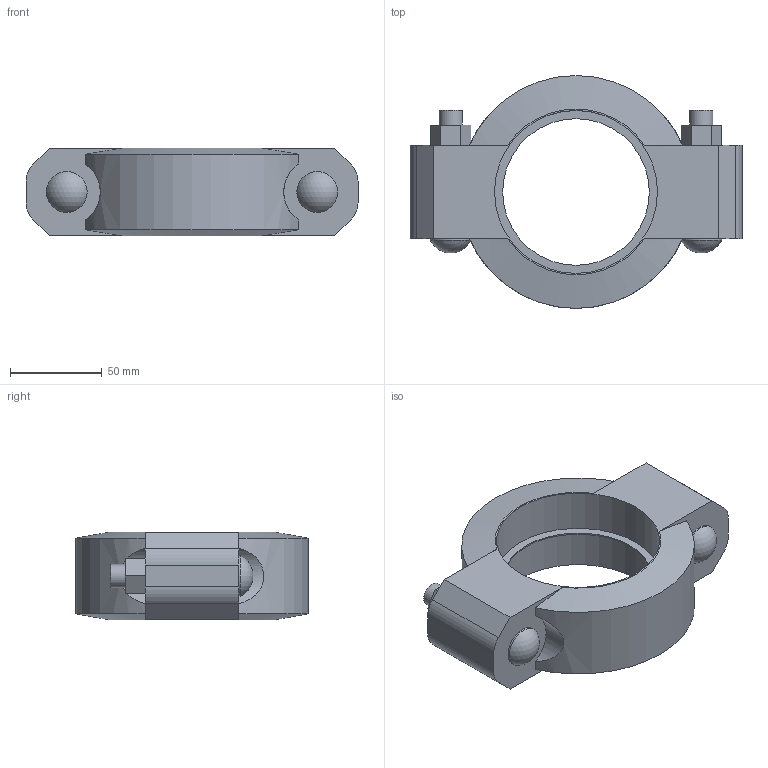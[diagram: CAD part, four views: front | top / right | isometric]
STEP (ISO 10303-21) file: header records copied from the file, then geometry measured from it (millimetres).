
FILE_DESCRIPTION(/* description */ ('Victaulic Standard Flexible Coupling Style 77','CAx-IF Rec.Pracs.---Representation and Presentation of Product Manufacturing Information (PMI)---4.0---2014-10-13'),/* implementation_level */ '2;1');
FILE_NAME(/* name */ 'C:\Users\Vjadhav\Desktop\CAD for Inventor\1\Coupling bolt thickness\77\Victaulic_IPS_Coupling Flexible_Style 77 (OGS)\Victaulic_IPS_Coupling Flexible_Style 77 (OGS)_3 (80).stp',/* time_stamp */ '2022-03-24T18:20:07+06:00',/* author */ ('CONSTRUCTION PIPING SERVICES'),/* organization */ ('Victaulic'),/* preprocessor_version */ 'ST-DEVELOPER v17.2',/* originating_system */ 'Autodesk Inventor 2019',/* authorisation */ '');
FILE_SCHEMA (('AP242_MANAGED_MODEL_BASED_3D_ENGINEERING_MIM_LF { 1 0 10303 442 1 1 4 }'));
Length unit declared in the file: inch
Products named in the file (1): 077-03.0
Bounding box: 181.1 x 127 x 47.75 mm (x, y, z)
Volume: 420805 mm3; surface area: 67769.3 mm2
Topology: 1 solids, 3 shells, 61 faces, 142 edges, 95 vertices
Faces by surface type: plane 34, cylinder 21, cone 4, sphere 2
Full cylindrical faces by diameter (mm): 12.7 x4, 14.605 x2, 22.225 x2, 80.01 x1, 88.9 x2
Entity records: 2059 total; most frequent: CARTESIAN_POINT 432, DIRECTION 323, ORIENTED_EDGE 284, EDGE_CURVE 142, AXIS2_PLACEMENT_3D 118, VERTEX_POINT 95, LINE 87, VECTOR 87
